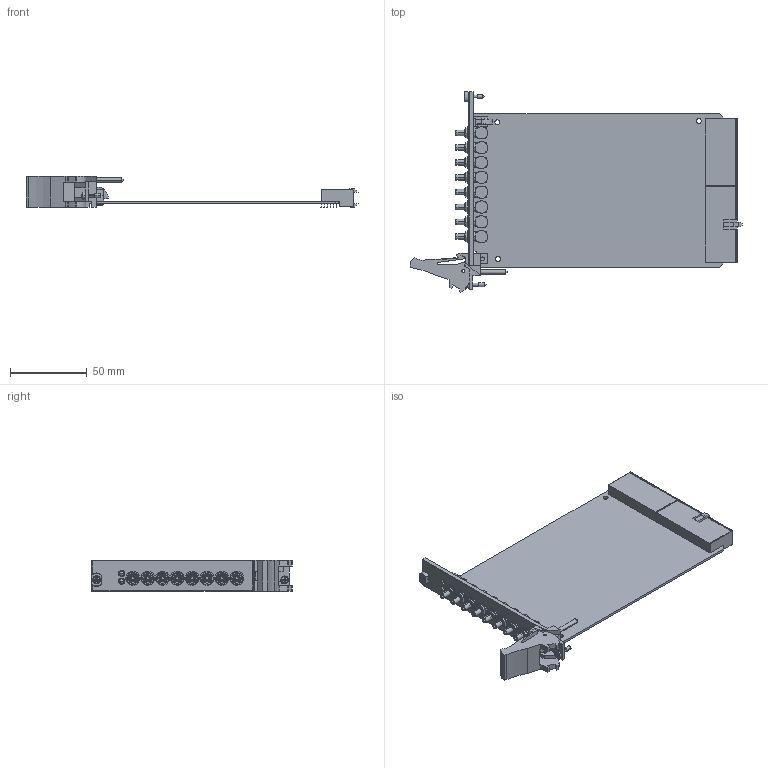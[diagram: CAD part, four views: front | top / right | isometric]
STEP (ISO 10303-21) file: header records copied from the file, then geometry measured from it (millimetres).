
FILE_DESCRIPTION((''),'2;1');
FILE_NAME('CU_CCA_PXI_6652','2009-06-04T',('jpfaff'),(''),'PRO/ENGINEER BY PARAMETRIC TECHNOLOGY CORPORATION, 2006080','PRO/ENGINEER BY PARAMETRIC TECHNOLOGY CORPORATION, 2006080','');
FILE_SCHEMA(('CONFIG_CONTROL_DESIGN'));
Length unit declared in the file: inch
Products named in the file (1): CU_CCA_PXI_6652
Bounding box: 216.08 x 130.5 x 20.19 mm (x, y, z)
Volume: 62449 mm3; surface area: 54587.6 mm2
Topology: 1 solids, 1 shells, 1225 faces, 3151 edges, 2032 vertices
Faces by surface type: plane 765, cylinder 398, cone 46, sphere 12, torus 4
Entity records: 39608 total; most frequent: CARTESIAN_POINT 8773, DIRECTION 6601, ORIENTED_EDGE 6286, EDGE_CURVE 3143, AXIS2_PLACEMENT_3D 2359, VERTEX_POINT 2032, VECTOR 1883, LINE 1883
